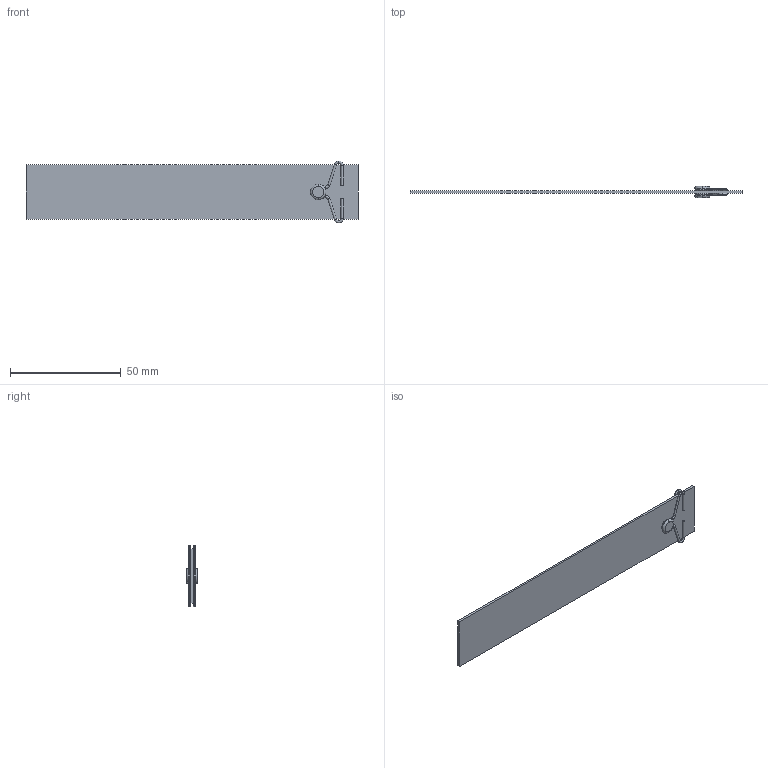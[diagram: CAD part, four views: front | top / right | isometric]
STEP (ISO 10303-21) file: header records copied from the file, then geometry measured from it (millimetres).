
FILE_DESCRIPTION (( 'STEP AP203' ), '1' );
FILE_NAME ('RLA-25x150.STEP', '2015-12-10T16:20:59', ( 'Balzi' ), ( '' ), 'SwSTEP 2.0', 'SolidWorks 2015', '' );
FILE_SCHEMA (( 'CONFIG_CONTROL_DESIGN' ));
Length unit declared in the file: millimetre
Products named in the file (1): RLA-25x150
Bounding box: 150 x 5 x 27.99 mm (x, y, z)
Volume: 3879.2 mm3; surface area: 8367 mm2
Topology: 5 solids, 5 shells, 84 faces, 162 edges, 88 vertices
Faces by surface type: torus 40, cylinder 30, plane 14
Entity records: 2199 total; most frequent: DIRECTION 452, CARTESIAN_POINT 335, ORIENTED_EDGE 324, AXIS2_PLACEMENT_3D 205, EDGE_CURVE 162, CIRCLE 120, VERTEX_POINT 88, EDGE_LOOP 86
